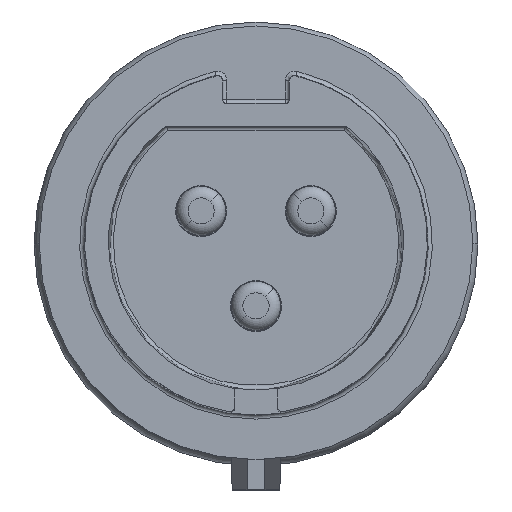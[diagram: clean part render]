
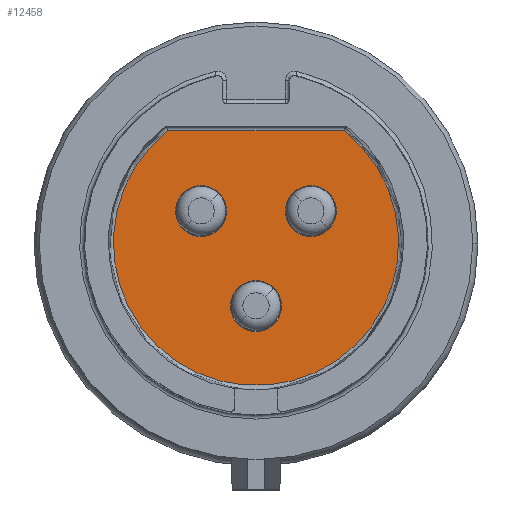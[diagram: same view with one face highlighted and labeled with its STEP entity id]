
A CAD part, top view. The second image highlights one B-rep face of the part: STEP entity #12458.
In plain terms, the highlighted planar face has unit normal (0, 0, 1).
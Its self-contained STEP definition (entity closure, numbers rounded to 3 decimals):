
#1457=DIRECTION('',(1.,0.,0.));
#1458=VECTOR('',#1457,21.427);
#1459=CARTESIAN_POINT('',(-10.713,13.65,0.));
#1460=LINE('1030',#1459,#1458);
#1461=CARTESIAN_POINT('',(0.,0.,0.));
#1462=DIRECTION('',(0.,0.,1.));
#1463=DIRECTION('',(-0.617,0.787,0.));
#1464=AXIS2_PLACEMENT_3D('',#1461,#1462,#1463);
#1466=CARTESIAN_POINT('',(6.668,3.85,0.));
#1467=DIRECTION('',(0.,0.,1.));
#1468=DIRECTION('',(-1.,0.,0.));
#1469=AXIS2_PLACEMENT_3D('',#1466,#1467,#1468);
#1471=CARTESIAN_POINT('',(6.668,3.85,0.));
#1472=DIRECTION('',(0.,0.,1.));
#1473=DIRECTION('',(1.,0.,0.));
#1474=AXIS2_PLACEMENT_3D('',#1471,#1472,#1473);
#1476=CARTESIAN_POINT('',(-6.668,3.85,0.));
#1477=DIRECTION('',(0.,0.,1.));
#1478=DIRECTION('',(-1.,0.,0.));
#1479=AXIS2_PLACEMENT_3D('',#1476,#1477,#1478);
#1481=CARTESIAN_POINT('',(-6.668,3.85,0.));
#1482=DIRECTION('',(0.,0.,1.));
#1483=DIRECTION('',(1.,0.,0.));
#1484=AXIS2_PLACEMENT_3D('',#1481,#1482,#1483);
#1486=CARTESIAN_POINT('',(0.,-7.7,0.));
#1487=DIRECTION('',(0.,0.,1.));
#1488=DIRECTION('',(-1.,0.,0.));
#1489=AXIS2_PLACEMENT_3D('',#1486,#1487,#1488);
#1491=CARTESIAN_POINT('',(0.,-7.7,0.));
#1492=DIRECTION('',(0.,0.,1.));
#1493=DIRECTION('',(1.,0.,0.));
#1494=AXIS2_PLACEMENT_3D('',#1491,#1492,#1493);
#8922=CARTESIAN_POINT('',(3.568,3.85,0.));
#8923=CARTESIAN_POINT('',(9.768,3.85,0.));
#8924=VERTEX_POINT('',#8922);
#8925=VERTEX_POINT('',#8923);
#8926=CARTESIAN_POINT('',(-9.768,3.85,0.));
#8927=CARTESIAN_POINT('',(-3.568,3.85,0.));
#8928=VERTEX_POINT('',#8926);
#8929=VERTEX_POINT('',#8927);
#8930=CARTESIAN_POINT('',(-10.713,13.65,0.));
#8931=CARTESIAN_POINT('',(10.713,13.65,0.));
#8932=VERTEX_POINT('',#8930);
#8933=VERTEX_POINT('',#8931);
#8960=CARTESIAN_POINT('',(-3.1,-7.7,0.));
#8961=CARTESIAN_POINT('',(3.1,-7.7,0.));
#8962=VERTEX_POINT('',#8960);
#8963=VERTEX_POINT('',#8961);
#12431=CARTESIAN_POINT('',(0.,0.,0.));
#12432=DIRECTION('',(0.,0.,-1.));
#12433=DIRECTION('',(0.,1.,0.));
#12434=AXIS2_PLACEMENT_3D('',#12431,#12432,#12433);
#12435=PLANE('398',#12434);
#12436=ORIENTED_EDGE('1030',*,*,#12410,.T.);
#12437=ORIENTED_EDGE('1033',*,*,#12386,.F.);
#12438=EDGE_LOOP('398',(#12436,#12437));
#12439=FACE_OUTER_BOUND('398',#12438,.F.);
#12441=ORIENTED_EDGE('1026',*,*,#12440,.T.);
#12443=ORIENTED_EDGE('1027',*,*,#12442,.T.);
#12444=EDGE_LOOP('398',(#12441,#12443));
#12445=FACE_BOUND('398',#12444,.F.);
#12447=ORIENTED_EDGE('1028',*,*,#12446,.T.);
#12449=ORIENTED_EDGE('1029',*,*,#12448,.T.);
#12450=EDGE_LOOP('398',(#12447,#12449));
#12451=FACE_BOUND('398',#12450,.F.);
#12453=ORIENTED_EDGE('1068',*,*,#12452,.T.);
#12455=ORIENTED_EDGE('1069',*,*,#12454,.T.);
#12456=EDGE_LOOP('398',(#12453,#12455));
#12457=FACE_BOUND('398',#12456,.F.);
#1465=CIRCLE('1033',#1464,17.352);
#1470=CIRCLE('1026',#1469,3.1);
#1475=CIRCLE('1027',#1474,3.1);
#1480=CIRCLE('1028',#1479,3.1);
#1485=CIRCLE('1029',#1484,3.1);
#1490=CIRCLE('1068',#1489,3.1);
#1495=CIRCLE('1069',#1494,3.1);
#12386=EDGE_CURVE('1033',#8932,#8933,#1465,.T.);
#12410=EDGE_CURVE('1030',#8932,#8933,#1460,.T.);
#12440=EDGE_CURVE('1026',#8924,#8925,#1470,.T.);
#12442=EDGE_CURVE('1027',#8925,#8924,#1475,.T.);
#12446=EDGE_CURVE('1028',#8928,#8929,#1480,.T.);
#12448=EDGE_CURVE('1029',#8929,#8928,#1485,.T.);
#12452=EDGE_CURVE('1068',#8962,#8963,#1490,.T.);
#12454=EDGE_CURVE('1069',#8963,#8962,#1495,.T.);
#12458=ADVANCED_FACE('398',(#12439,#12445,#12451,#12457),#12435,.F.);
